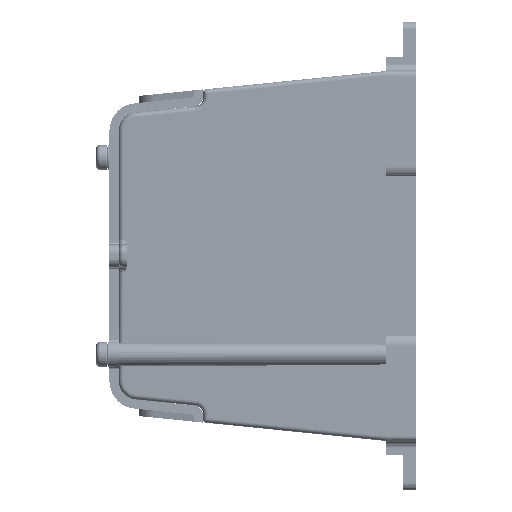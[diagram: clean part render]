
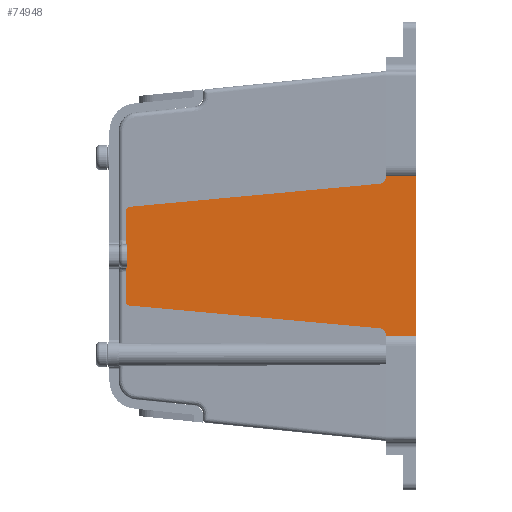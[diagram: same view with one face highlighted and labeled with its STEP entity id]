
A CAD part, left-side view. The second image highlights one B-rep face of the part: STEP entity #74948.
In plain terms, the highlighted planar face has unit normal (-1, 0, 0).
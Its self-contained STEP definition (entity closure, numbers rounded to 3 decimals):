
#2942=LINE('',#101594,#6997);
#2945=LINE('',#101603,#7000);
#3310=LINE('',#103129,#7365);
#3313=LINE('',#103140,#7368);
#3318=LINE('',#103155,#7373);
#3611=LINE('',#104567,#7666);
#3617=LINE('',#104587,#7672);
#3621=LINE('',#104600,#7676);
#3642=LINE('',#104760,#7697);
#3643=LINE('',#104763,#7698);
#3644=LINE('',#104764,#7699);
#3645=LINE('',#104765,#7700);
#6997=VECTOR('',#85290,1000.);
#7000=VECTOR('',#85301,1000.);
#7365=VECTOR('',#86558,1000.);
#7368=VECTOR('',#86569,1000.);
#7373=VECTOR('',#86584,1000.);
#7666=VECTOR('',#87429,1000.);
#7672=VECTOR('',#87445,1000.);
#7676=VECTOR('',#87459,1000.);
#7697=VECTOR('',#87640,1000.);
#7698=VECTOR('',#87641,1000.);
#7699=VECTOR('',#87642,1000.);
#7700=VECTOR('',#87643,1000.);
#15032=ORIENTED_EDGE('',*,*,#29577,.F.);
#15033=ORIENTED_EDGE('',*,*,#29578,.T.);
#15034=ORIENTED_EDGE('',*,*,#29488,.F.);
#15035=ORIENTED_EDGE('',*,*,#29494,.F.);
#15036=ORIENTED_EDGE('',*,*,#29497,.F.);
#15037=ORIENTED_EDGE('',*,*,#29500,.F.);
#15038=ORIENTED_EDGE('',*,*,#29579,.F.);
#15039=ORIENTED_EDGE('',*,*,#29504,.F.);
#15040=ORIENTED_EDGE('',*,*,#28415,.F.);
#15041=ORIENTED_EDGE('',*,*,#28410,.F.);
#15042=ORIENTED_EDGE('',*,*,#29035,.F.);
#15043=ORIENTED_EDGE('',*,*,#29037,.F.);
#15044=ORIENTED_EDGE('',*,*,#29040,.F.);
#15045=ORIENTED_EDGE('',*,*,#29043,.F.);
#15046=ORIENTED_EDGE('',*,*,#29048,.F.);
#15047=ORIENTED_EDGE('',*,*,#29580,.F.);
#28410=EDGE_CURVE('',#36053,#36051,#2942,.T.);
#28415=EDGE_CURVE('',#36051,#36056,#2945,.T.);
#29035=EDGE_CURVE('',#36455,#36053,#3310,.T.);
#29037=EDGE_CURVE('',#36457,#36455,#41073,.T.);
#29040=EDGE_CURVE('',#36459,#36457,#3313,.T.);
#29043=EDGE_CURVE('',#36461,#36459,#41074,.T.);
#29048=EDGE_CURVE('',#36464,#36461,#3318,.T.);
#29488=EDGE_CURVE('',#36726,#36727,#3611,.T.);
#29494=EDGE_CURVE('',#36732,#36726,#41115,.T.);
#29497=EDGE_CURVE('',#36734,#36732,#3617,.T.);
#29500=EDGE_CURVE('',#36736,#36734,#41116,.T.);
#29504=EDGE_CURVE('',#36056,#36738,#3621,.T.);
#29577=EDGE_CURVE('',#36783,#36784,#3642,.T.);
#29578=EDGE_CURVE('',#36783,#36727,#3643,.T.);
#29579=EDGE_CURVE('',#36738,#36736,#3644,.T.);
#29580=EDGE_CURVE('',#36784,#36464,#3645,.T.);
#36051=VERTEX_POINT('',#101589);
#36053=VERTEX_POINT('',#101593);
#36056=VERTEX_POINT('',#101604);
#36455=VERTEX_POINT('',#103128);
#36457=VERTEX_POINT('',#103133);
#36459=VERTEX_POINT('',#103139);
#36461=VERTEX_POINT('',#103145);
#36464=VERTEX_POINT('',#103154);
#36726=VERTEX_POINT('',#104568);
#36727=VERTEX_POINT('',#104569);
#36732=VERTEX_POINT('',#104580);
#36734=VERTEX_POINT('',#104586);
#36736=VERTEX_POINT('',#104592);
#36738=VERTEX_POINT('',#104598);
#36783=VERTEX_POINT('',#104761);
#36784=VERTEX_POINT('',#104762);
#41073=CIRCLE('',#78639,1.5);
#41074=CIRCLE('',#78643,1.);
#41115=CIRCLE('',#78925,1.);
#41116=CIRCLE('',#78929,1.5);
#43424=EDGE_LOOP('',(#15032,#15033,#15034,#15035,#15036,#15037,#15038,#15039,
#15040,#15041,#15042,#15043,#15044,#15045,#15046,#15047));
#47249=FACE_BOUND('',#43424,.T.);
#50616=PLANE('',#79012);
#74948=ADVANCED_FACE('',(#47249),#50616,.F.);
#78639=AXIS2_PLACEMENT_3D('',#103134,#86562,#86563);
#78643=AXIS2_PLACEMENT_3D('',#103146,#86574,#86575);
#78925=AXIS2_PLACEMENT_3D('',#104581,#87438,#87439);
#78929=AXIS2_PLACEMENT_3D('',#104593,#87450,#87451);
#79012=AXIS2_PLACEMENT_3D('',#104759,#87638,#87639);
#85290=DIRECTION('',(0.,-1.,0.));
#85301=DIRECTION('',(0.,0.,-1.));
#86558=DIRECTION('',(0.,0.,1.));
#86562=DIRECTION('',(-1.,0.,0.));
#86563=DIRECTION('',(0.,1.,0.));
#86569=DIRECTION('',(0.,-0.996,0.092));
#86574=DIRECTION('',(1.,0.,0.));
#86575=DIRECTION('',(0.,1.,0.));
#86584=DIRECTION('',(0.,0.,1.));
#87429=DIRECTION('',(0.,0.,1.));
#87438=DIRECTION('',(1.,0.,0.));
#87439=DIRECTION('',(0.,-1.,0.));
#87445=DIRECTION('',(0.,0.996,0.09));
#87450=DIRECTION('',(-1.,0.,0.));
#87451=DIRECTION('',(0.,1.,0.));
#87459=DIRECTION('',(0.,1.,0.));
#87638=DIRECTION('',(1.,0.,0.));
#87639=DIRECTION('',(0.,0.,-1.));
#87640=DIRECTION('',(0.,0.,1.));
#87641=DIRECTION('',(0.,1.,0.));
#87642=DIRECTION('',(0.,0.,1.));
#87643=DIRECTION('',(0.,1.,0.));
#101589=CARTESIAN_POINT('',(-74.1,0.,17.2));
#101593=CARTESIAN_POINT('',(-74.1,6.5,17.2));
#101594=CARTESIAN_POINT('',(-74.1,0.,17.2));
#101603=CARTESIAN_POINT('',(-74.1,0.,-17.2));
#101604=CARTESIAN_POINT('',(-74.1,0.,-17.2));
#103128=CARTESIAN_POINT('',(-74.1,6.5,17.118));
#103129=CARTESIAN_POINT('',(-74.1,6.5,17.118));
#103133=CARTESIAN_POINT('',(-74.1,7.862,15.624));
#103134=CARTESIAN_POINT('',(-74.1,8.,17.118));
#103139=CARTESIAN_POINT('',(-74.1,61.892,10.647));
#103140=CARTESIAN_POINT('',(-74.1,7.862,15.624));
#103145=CARTESIAN_POINT('',(-74.1,62.8,9.651));
#103146=CARTESIAN_POINT('',(-74.1,61.8,9.651));
#103154=CARTESIAN_POINT('',(-74.1,62.8,2.5));
#103155=CARTESIAN_POINT('',(-74.1,62.8,-9.723));
#104567=CARTESIAN_POINT('',(-74.1,62.8,-9.723));
#104568=CARTESIAN_POINT('',(-74.1,62.8,-9.723));
#104569=CARTESIAN_POINT('',(-74.1,62.8,-2.5));
#104580=CARTESIAN_POINT('',(-74.1,61.89,-10.719));
#104581=CARTESIAN_POINT('',(-74.1,61.8,-9.723));
#104586=CARTESIAN_POINT('',(-74.1,7.864,-15.626));
#104587=CARTESIAN_POINT('',(-74.1,7.864,-15.626));
#104592=CARTESIAN_POINT('',(-74.1,6.5,-17.12));
#104593=CARTESIAN_POINT('',(-74.1,8.,-17.12));
#104598=CARTESIAN_POINT('',(-74.1,6.5,-17.2));
#104600=CARTESIAN_POINT('',(-74.1,0.,-17.2));
#104759=CARTESIAN_POINT('',(-74.1,61.8,-9.723));
#104760=CARTESIAN_POINT('',(-74.1,62.6,-9.723));
#104761=CARTESIAN_POINT('',(-74.1,62.6,-2.5));
#104762=CARTESIAN_POINT('',(-74.1,62.6,2.5));
#104763=CARTESIAN_POINT('',(-74.1,62.6,-2.5));
#104764=CARTESIAN_POINT('',(-74.1,6.5,-17.12));
#104765=CARTESIAN_POINT('',(-74.1,62.6,2.5));
